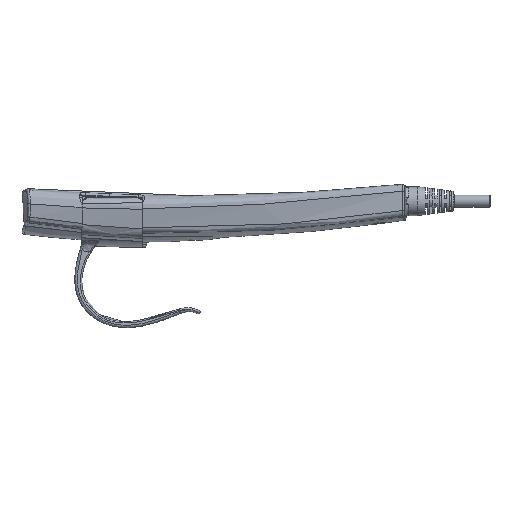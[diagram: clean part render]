
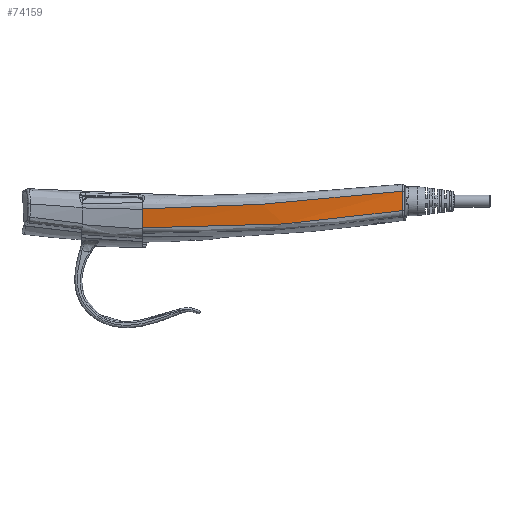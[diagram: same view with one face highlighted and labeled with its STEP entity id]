
A CAD part, left-side view. The second image highlights one B-rep face of the part: STEP entity #74159.
In plain terms, the highlighted toroidal (fillet/blend) face has major radius 3290.82 mm and minor radius 53.472 mm.
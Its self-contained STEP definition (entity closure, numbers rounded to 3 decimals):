
#2783 = AXIS2_PLACEMENT_3D ( 'NONE', #40635, #40639, #40686 ) ;
#3757 = CARTESIAN_POINT ( 'NONE',  ( -7.845, -75.954, 4.037 ) ) ;
#3805 = CARTESIAN_POINT ( 'NONE',  ( -8.1, -75.943, 6.73 ) ) ;
#3807 = CARTESIAN_POINT ( 'NONE',  ( -8.149, -75.94, 9.439 ) ) ;
#3809 = CARTESIAN_POINT ( 'NONE',  ( -7.992, -75.947, 12.139 ) ) ;
#3875 = CARTESIAN_POINT ( 'NONE',  ( -10.162, 32.135, -3.095 ) ) ;
#3894 = CARTESIAN_POINT ( 'NONE',  ( -10.162, 32.135, -3.095 ) ) ;
#3897 = CARTESIAN_POINT ( 'NONE',  ( -9.951, 23.11, -3.381 ) ) ;
#3899 = CARTESIAN_POINT ( 'NONE',  ( -9.784, 14.078, -3.32 ) ) ;
#3901 = CARTESIAN_POINT ( 'NONE',  ( -9.549, 0.522, -2.922 ) ) ;
#3902 = CARTESIAN_POINT ( 'NONE',  ( -9.473, -3.997, -2.738 ) ) ;
#3904 = CARTESIAN_POINT ( 'NONE',  ( -9.355, -10.77, -2.413 ) ) ;
#3906 = CARTESIAN_POINT ( 'NONE',  ( -9.314, -13.027, -2.296 ) ) ;
#3908 = CARTESIAN_POINT ( 'NONE',  ( -9.231, -17.541, -2.05 ) ) ;
#3910 = CARTESIAN_POINT ( 'NONE',  ( -9.188, -19.797, -1.922 ) ) ;
#3912 = CARTESIAN_POINT ( 'NONE',  ( -8.965, -31.076, -1.24 ) ) ;
#3914 = CARTESIAN_POINT ( 'NONE',  ( -8.771, -40.091, -0.569 ) ) ;
#3916 = CARTESIAN_POINT ( 'NONE',  ( -8.456, -53.587, 0.823 ) ) ;
#3918 = CARTESIAN_POINT ( 'NONE',  ( -8.347, -58.076, 1.351 ) ) ;
#3920 = CARTESIAN_POINT ( 'NONE',  ( -8.112, -67.033, 2.567 ) ) ;
#3922 = CARTESIAN_POINT ( 'NONE',  ( -7.987, -71.501, 3.254 ) ) ;
#3924 = CARTESIAN_POINT ( 'NONE',  ( -7.845, -75.954, 4.037 ) ) ;
#3927 = CARTESIAN_POINT ( 'NONE',  ( -7.992, -75.947, 12.139 ) ) ;
#3929 = CARTESIAN_POINT ( 'NONE',  ( -10.767, 32.135, -0.501 ) ) ;
#3931 = CARTESIAN_POINT ( 'NONE',  ( -11.177, 32.134, 2.135 ) ) ;
#3933 = CARTESIAN_POINT ( 'NONE',  ( -11.39, 32.135, 4.781 ) ) ;
#3936 = CARTESIAN_POINT ( 'NONE',  ( -8.24, -71.44, 11.629 ) ) ;
#3938 = CARTESIAN_POINT ( 'NONE',  ( -8.469, -66.955, 11.14 ) ) ;
#3940 = CARTESIAN_POINT ( 'NONE',  ( -8.787, -60.261, 10.436 ) ) ;
#3942 = CARTESIAN_POINT ( 'NONE',  ( -8.94, -56.923, 10.092 ) ) ;
#3944 = CARTESIAN_POINT ( 'NONE',  ( -9.096, -53.32, 9.733 ) ) ;
#3946 = CARTESIAN_POINT ( 'NONE',  ( -9.157, -51.867, 9.589 ) ) ;
#3948 = CARTESIAN_POINT ( 'NONE',  ( -9.172, -51.522, 9.555 ) ) ;
#3950 = CARTESIAN_POINT ( 'NONE',  ( -9.176, -51.418, 9.545 ) ) ;
#3952 = CARTESIAN_POINT ( 'NONE',  ( -9.177, -51.38, 9.541 ) ) ;
#3954 = CARTESIAN_POINT ( 'NONE',  ( -9.181, -51.308, 9.534 ) ) ;
#3956 = CARTESIAN_POINT ( 'NONE',  ( -9.188, -51.126, 9.517 ) ) ;
#3958 = CARTESIAN_POINT ( 'NONE',  ( -9.22, -50.364, 9.442 ) ) ;
#3960 = CARTESIAN_POINT ( 'NONE',  ( -9.44, -45.019, 8.923 ) ) ;
#3962 = CARTESIAN_POINT ( 'NONE',  ( -9.629, -39.968, 8.461 ) ) ;
#3964 = CARTESIAN_POINT ( 'NONE',  ( -9.819, -34.506, 7.99 ) ) ;
#3965 = CARTESIAN_POINT ( 'NONE',  ( -9.856, -33.421, 7.898 ) ) ;
#3967 = CARTESIAN_POINT ( 'NONE',  ( -9.892, -32.327, 7.806 ) ) ;
#3969 = CARTESIAN_POINT ( 'NONE',  ( -9.893, -32.307, 7.805 ) ) ;
#3971 = CARTESIAN_POINT ( 'NONE',  ( -9.894, -32.269, 7.802 ) ) ;
#3973 = CARTESIAN_POINT ( 'NONE',  ( -9.896, -32.213, 7.797 ) ) ;
#3975 = CARTESIAN_POINT ( 'NONE',  ( -9.9, -32.083, 7.786 ) ) ;
#3976 = CARTESIAN_POINT ( 'NONE',  ( -9.909, -31.822, 7.764 ) ) ;
#3978 = CARTESIAN_POINT ( 'NONE',  ( -9.926, -31.301, 7.721 ) ) ;
#3980 = CARTESIAN_POINT ( 'NONE',  ( -9.96, -30.261, 7.636 ) ) ;
#3982 = CARTESIAN_POINT ( 'NONE',  ( -10.065, -27.007, 7.372 ) ) ;
#3984 = CARTESIAN_POINT ( 'NONE',  ( -10.154, -24.093, 7.147 ) ) ;
#3986 = CARTESIAN_POINT ( 'NONE',  ( -10.357, -17.186, 6.639 ) ) ;
#3988 = CARTESIAN_POINT ( 'NONE',  ( -10.477, -12.695, 6.34 ) ) ;
#3990 = CARTESIAN_POINT ( 'NONE',  ( -10.64, -6.129, 5.951 ) ) ;
#3992 = CARTESIAN_POINT ( 'NONE',  ( -10.691, -3.969, 5.831 ) ) ;
#3994 = CARTESIAN_POINT ( 'NONE',  ( -10.752, -1.304, 5.694 ) ) ;
#3996 = CARTESIAN_POINT ( 'NONE',  ( -10.77, -0.507, 5.654 ) ) ;
#3998 = CARTESIAN_POINT ( 'NONE',  ( -10.791, 0.418, 5.609 ) ) ;
#4000 = CARTESIAN_POINT ( 'NONE',  ( -10.801, 0.879, 5.586 ) ) ;
#4002 = CARTESIAN_POINT ( 'NONE',  ( -10.806, 1.076, 5.577 ) ) ;
#4004 = CARTESIAN_POINT ( 'NONE',  ( -10.809, 1.208, 5.571 ) ) ;
#4006 = CARTESIAN_POINT ( 'NONE',  ( -10.81, 1.284, 5.567 ) ) ;
#4008 = CARTESIAN_POINT ( 'NONE',  ( -10.838, 2.552, 5.507 ) ) ;
#4010 = CARTESIAN_POINT ( 'NONE',  ( -10.864, 3.738, 5.453 ) ) ;
#4012 = CARTESIAN_POINT ( 'NONE',  ( -11.09, 14.366, 5. ) ) ;
#4014 = CARTESIAN_POINT ( 'NONE',  ( -11.251, 23.438, 4.793 ) ) ;
#4016 = CARTESIAN_POINT ( 'NONE',  ( -11.39, 32.135, 4.781 ) ) ;
#18526 = CARTESIAN_POINT ( 'NONE',  ( -11.39, 32.135, 4.781 ) ) ;
#18561 = CARTESIAN_POINT ( 'NONE',  ( -10.162, 32.135, -3.095 ) ) ;
#18742 = CARTESIAN_POINT ( 'NONE',  ( -7.992, -75.947, 12.139 ) ) ;
#18789 = CARTESIAN_POINT ( 'NONE',  ( -7.845, -75.954, 4.037 ) ) ;
#19047 = VERTEX_POINT ( 'NONE', #18742 ) ;
#19060 = VERTEX_POINT ( 'NONE', #18561 ) ;
#19205 = VERTEX_POINT ( 'NONE', #18789 ) ;
#19444 = VERTEX_POINT ( 'NONE', #18526 ) ;
#28370 = EDGE_CURVE ( 'NONE', #19205, #19047, #92169, .T. ) ;
#28379 = EDGE_CURVE ( 'NONE', #19060, #19205, #92178, .T. ) ;
#28380 = EDGE_CURVE ( 'NONE', #19060, #19444, #92179, .T. ) ;
#28381 = EDGE_CURVE ( 'NONE', #19047, #19444, #92180, .T. ) ;
#28721 = ORIENTED_EDGE ( 'NONE', *, *, #28380, .F. ) ;
#28722 = ORIENTED_EDGE ( 'NONE', *, *, #28379, .T. ) ;
#28723 = ORIENTED_EDGE ( 'NONE', *, *, #28370, .T. ) ;
#28724 = ORIENTED_EDGE ( 'NONE', *, *, #28381, .T. ) ;
#40635 = CARTESIAN_POINT ( 'NONE',  ( 3332.309, 85.659, 9.053 ) ) ;
#40639 = DIRECTION ( 'NONE',  ( 0., 0., -1. ) ) ;
#40686 = DIRECTION ( 'NONE',  ( -1., 0., 0. ) ) ;
#56446 = TOROIDAL_SURFACE ( 'NONE', #2783, 3290.825, 53.472 ) ;
#56456 = FACE_OUTER_BOUND ( 'NONE', #70618, .T. ) ;
#70618 = EDGE_LOOP ( 'NONE', ( #28721, #28722, #28723, #28724 ) ) ;
#74159 = ADVANCED_FACE ( 'NONE', ( #56456 ), #56446, .T. ) ;
#92169 = B_SPLINE_CURVE_WITH_KNOTS ( 'NONE', 3,
 ( #3757, #3805, #3807, #3809 ),
 .UNSPECIFIED., .F., .F.,
 ( 4, 4 ),
 ( 0., 0.008 ),
 .UNSPECIFIED. ) ;
#92178 = B_SPLINE_CURVE_WITH_KNOTS ( 'NONE', 3,
 ( #3875, #3897, #3899, #3901, #3902, #3904, #3906, #3908, #3910, #3912, #3914, #3916, #3918, #3920, #3922, #3924 ),
 .UNSPECIFIED., .F., .F.,
 ( 4, 2, 2, 2, 2, 2, 2, 4 ),
 ( 0.048, 0.075, 0.089, 0.095, 0.102, 0.129, 0.143, 0.156 ),
 .UNSPECIFIED. ) ;
#92179 = B_SPLINE_CURVE_WITH_KNOTS ( 'NONE', 3,
 ( #3894, #3929, #3931, #3933 ),
 .UNSPECIFIED., .F., .F.,
 ( 4, 4 ),
 ( 0., 1. ),
 .UNSPECIFIED. ) ;
#92180 = B_SPLINE_CURVE_WITH_KNOTS ( 'NONE', 3,
 ( #3927, #3936, #3938, #3940, #3942, #3944, #3946, #3948, #3950, #3952, #3954, #3956, #3958, #3960, #3962, #3964, #3965, #3967, #3969, #3971, #3973, #3975, #3976, #3978, #3980, #3982, #3984, #3986, #3988, #3990, #3992, #3994, #3996, #3998, #4000, #4002, #4004, #4006, #4008, #4010, #4012, #4014, #4016 ),
 .UNSPECIFIED., .F., .F.,
 ( 4, 2, 1, 1, 1, 2, 2, 1, 1, 1, 2, 2, 2, 1, 1, 1, 1, 1, 1, 2, 2, 2, 1, 1, 1, 2, 2, 2, 4 ),
 ( 0.006, 0.092, 0.135, 0.156, 0.162, 0.163, 0.164, 0.165, 0.167, 0.178, 0.264, 0.286, 0.286, 0.286, 0.287, 0.288, 0.291, 0.296, 0.307, 0.35, 0.436, 0.479, 0.49, 0.496, 0.498, 0.5, 0.501, 0.523, 0.695 ),
 .UNSPECIFIED. ) ;
